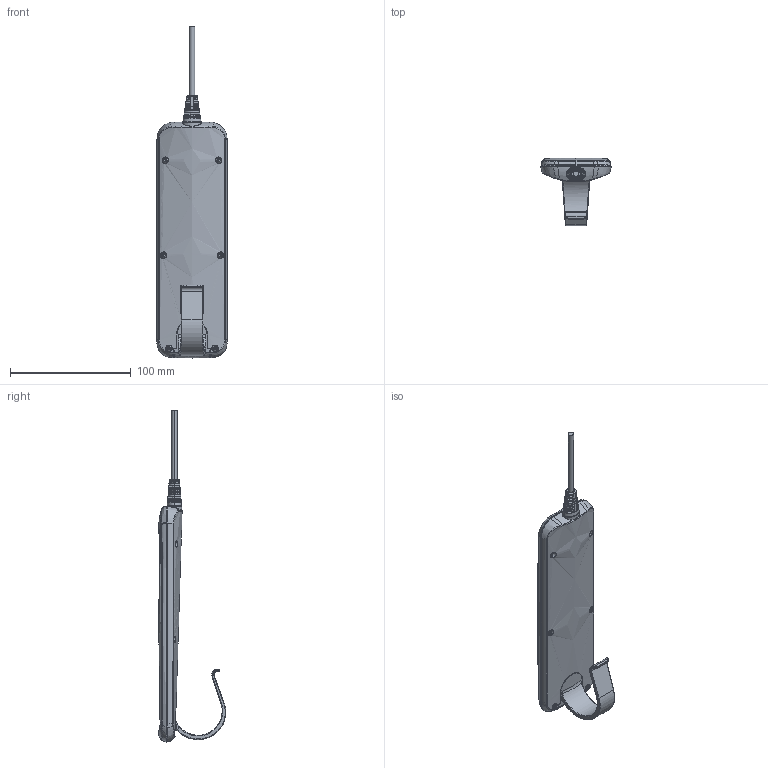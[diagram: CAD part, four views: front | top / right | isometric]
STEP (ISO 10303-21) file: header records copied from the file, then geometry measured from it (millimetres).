
FILE_DESCRIPTION((''),'2;1');
FILE_NAME('HS12L','2020-06-17T',('USER'),(''),'PRO/ENGINEER BY PARAMETRIC TECHNOLOGY CORPORATION, 2008090','PRO/ENGINEER BY PARAMETRIC TECHNOLOGY CORPORATION, 2008090','');
FILE_SCHEMA(('CONFIG_CONTROL_DESIGN'));
Length unit declared in the file: millimetre
Products named in the file (1): HS12L
Bounding box: 57.99 x 55.97 x 274.5 mm (x, y, z)
Volume: 68075.8 mm3; surface area: 73950.2 mm2
Topology: 1 solids, 13 shells, 2346 faces, 5962 edges, 3754 vertices
Faces by surface type: plane 875, cylinder 527, bspline 472, torus 219, cone 176, extrusion 75, sphere 2
Entity records: 98013 total; most frequent: CARTESIAN_POINT 45912, ORIENTED_EDGE 11924, DIRECTION 9088, EDGE_CURVE 5962, VERTEX_POINT 3754, AXIS2_PLACEMENT_3D 3265, VECTOR 2558, EDGE_LOOP 2488
